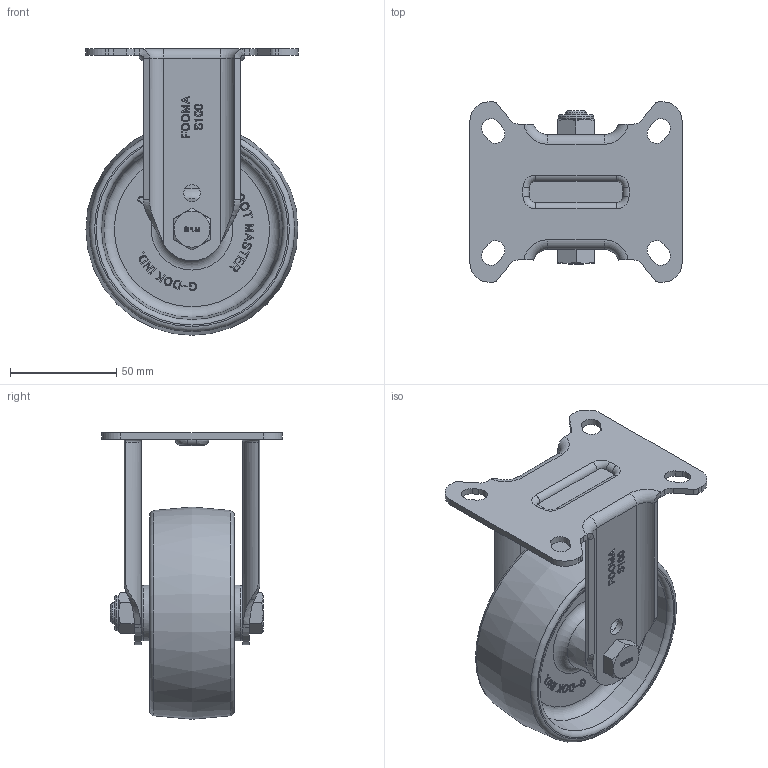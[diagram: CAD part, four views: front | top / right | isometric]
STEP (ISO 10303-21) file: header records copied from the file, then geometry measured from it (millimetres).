
FILE_DESCRIPTION(/* description */ (''),/* implementation_level */ '2;1');
FILE_NAME(/* name */ '\\192.168.10.38\지덕공유\1.기술연구소\2.연구개발 완료\완료_98.스테인레스캐스터 개발건_2023.10.26\제품설계\3D\홈페이지용\NYP\SPLM-100-ARF-NYP-PEU.step',/* time_stamp */ '2025-07-14T07:40:46+09:00',/* author */ ('admin'),/* organization */ ('지덕산업'),/* preprocessor_version */ 'ST-DEVELOPER v18.1',/* originating_system */ 'Autodesk Inventor 2021',/* authorisation */ '');
FILE_SCHEMA (('AUTOMOTIVE_DESIGN { 1 0 10303 214 3 1 1 }'));
Length unit declared in the file: millimetre
Products named in the file (1): SPLM-100-ARF-NYP-PEU
Bounding box: 100 x 85 x 135 mm (x, y, z)
Volume: 202370.6 mm3; surface area: 67035.9 mm2
Topology: 1 solids, 1 shells, 884 faces, 2372 edges, 1565 vertices
Faces by surface type: plane 430, bspline 360, cylinder 47, torus 24, cone 23
Full cylindrical faces by diameter (mm): 8 x2, 10 x1, 11 x1, 16.5 x1
Entity records: 28497 total; most frequent: CARTESIAN_POINT 8703, ORIENTED_EDGE 4744, DIRECTION 2864, EDGE_CURVE 2372, VERTEX_POINT 1565, LINE 1454, VECTOR 1454, EDGE_LOOP 973
